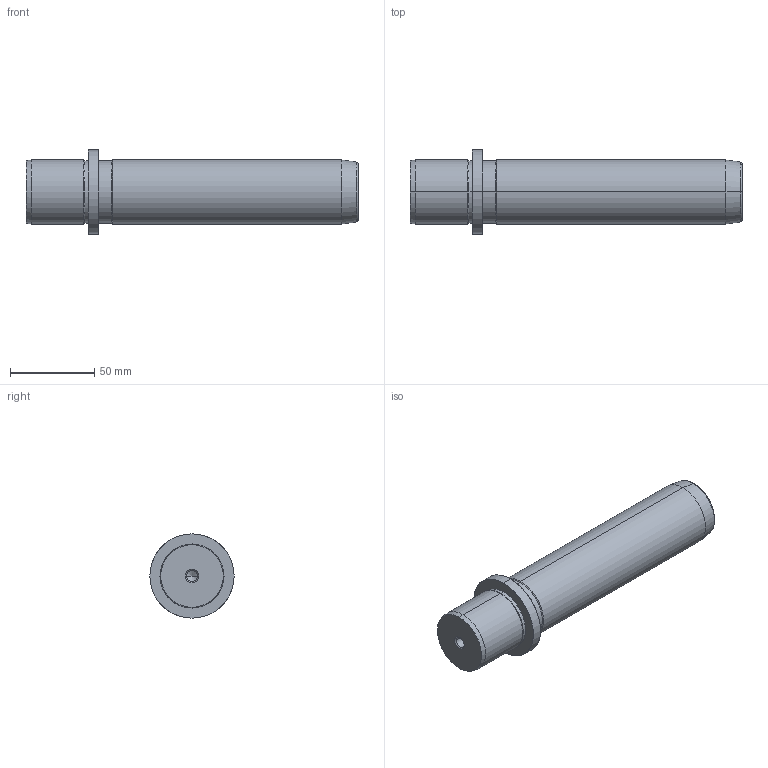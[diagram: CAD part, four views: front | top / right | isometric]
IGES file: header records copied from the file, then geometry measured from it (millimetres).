
Start section: START RECORD GO HERE.
Global section: file name: 719-38x160.igs; native system: DASSAULT SYSTEMES CATIA V5 R20 - www.3ds.com; preprocessor: CATIA Version 5 Release 20 ; author: Utente; organization: NB04-ASUS; date: 20210103.163950; units: millimetre
Bounding box: 197 x 50 x 50 mm (x, y, z)
Surface area: 28525.7 mm2 (no closed solid volume)
Topology: 0 solids, 0 shells, 36 faces, 196 edges, 192 vertices
Faces by surface type: revolution 32, plane 4
